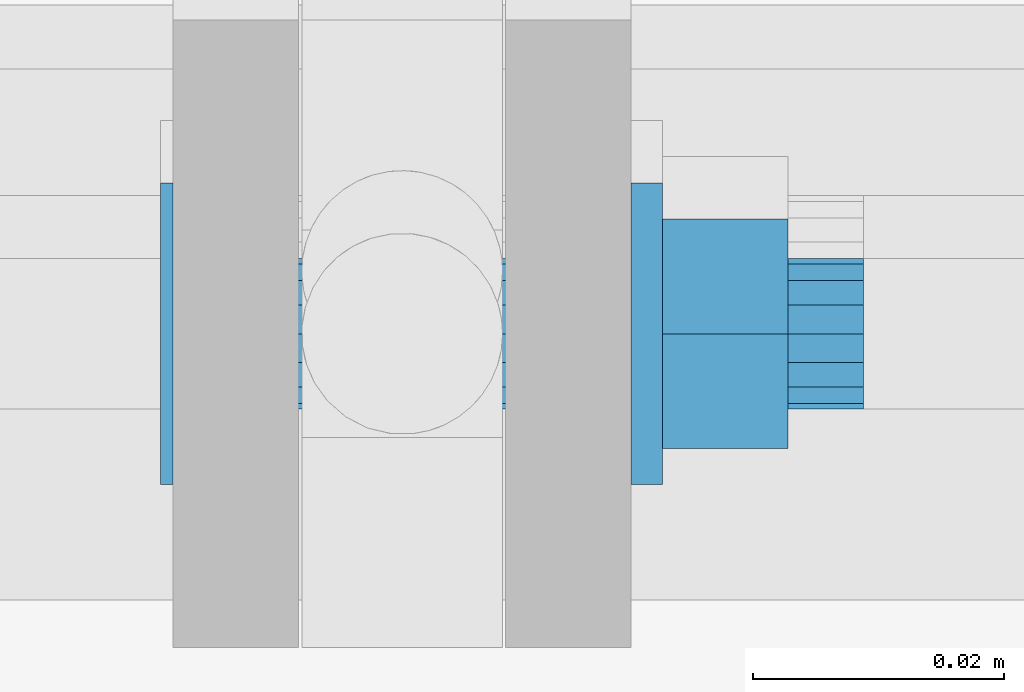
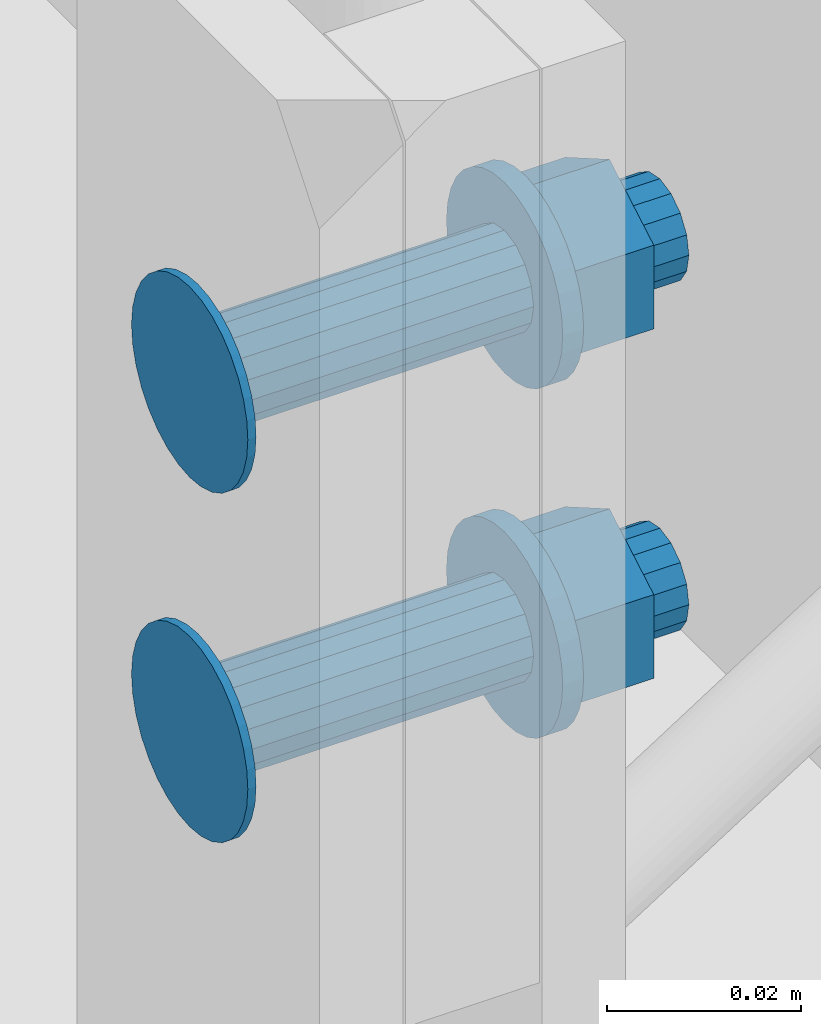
# One storey, part 73 of 98: 1 mechanical fastener.
"""IFC2X3 building model written with IfcOpenShell, lengths in millimetres."""

from ifc_helpers import new_model, entity, si_unit, converted_unit, origin_with_axes, place, context, project, spatial, faceted_brep, element, save


model = new_model("IFC2X3")

# Units and contexts
model_context = context("Model", 3, precision=1e-09, world=origin_with_axes())
ifc_project = project(units=[si_unit("LENGTHUNIT", "METRE", prefix="MILLI"), si_unit("AREAUNIT", "SQUARE_METRE"), si_unit("VOLUMEUNIT", "CUBIC_METRE"), converted_unit("PLANEANGLEUNIT", "DEGREE", entity("IfcPlaneAngleMeasure", 0.01745329), si_unit("PLANEANGLEUNIT", "RADIAN"), dimensions=[0, 0, 0, 0, 0, 0, 0])], contexts=[model_context])

# Site, building, storey
site_placement = place(None, origin_with_axes())
site = spatial("IfcSite", under=ifc_project, at=site_placement, Name="Maybachstra?e 2, 71563 Affalterbach", CompositionType="ELEMENT")
building_placement = place(site_placement, origin_with_axes())
building = spatial("IfcBuilding", under=site, at=building_placement, Name="Struktur 1", CompositionType="ELEMENT")
storey_placement = place(building_placement, origin_with_axes())
storey = spatial("IfcBuildingStorey", under=building, at=storey_placement, Name="Default Storey", CompositionType="ELEMENT", Elevation=0.0)

# Mechanical fastener
mechanical_fastener_placement = place(None, origin_with_axes())
element("IfcMechanicalFastener", 1, at=mechanical_fastener_placement, inside=storey, ObjectType="-", NominalDiameter=12.0, NominalLength=55.0, context=model_context, shape_type="Brep", body=[
    faceted_brep([(7996.779157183, -57.0, 4707.105870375), (7995.779157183, -57.0, 4707.105870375), (7995.779157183, -56.769423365, 4704.764786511), (7996.779157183, -56.769423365, 4704.764786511), (7995.779157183, -56.08655439, 4702.513669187), (7996.779157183, -56.08655439, 4702.513669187), (7995.779157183, -54.977635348, 4700.439027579), (7996.779157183, -54.977635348, 4700.439027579), (7995.779157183, -53.485281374, 4698.620589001), (7996.779157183, -53.485281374, 4698.620589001), (7995.779157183, -51.666842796, 4697.128235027), (7996.779157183, -51.666842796, 4697.128235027), (7995.779157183, -49.592201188, 4696.019315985), (7996.779157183, -49.592201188, 4696.019315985), (7995.779157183, -47.341083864, 4695.33644701), (7996.779157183, -47.341083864, 4695.33644701), (7995.779157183, -45.0, 4695.105870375), (7996.779157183, -45.0, 4695.105870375), (7995.779157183, -42.658916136, 4695.33644701), (7996.779157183, -42.658916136, 4695.33644701), (7995.779157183, -40.407798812, 4696.019315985), (7996.779157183, -40.407798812, 4696.019315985), (7995.779157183, -38.333157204, 4697.128235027), (7996.779157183, -38.333157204, 4697.128235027), (7995.779157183, -36.514718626, 4698.620589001), (7996.779157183, -36.514718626, 4698.620589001), (7995.779157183, -35.022364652, 4700.439027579), (7996.779157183, -35.022364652, 4700.439027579), (7995.779157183, -33.91344561, 4702.513669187), (7996.779157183, -33.91344561, 4702.513669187), (7995.779157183, -33.230576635, 4704.764786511), (7996.779157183, -33.230576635, 4704.764786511), (7995.779157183, -33.0, 4707.105870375), (7996.779157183, -33.0, 4707.105870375), (7995.779157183, -33.230576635, 4709.446954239), (7996.779157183, -33.230576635, 4709.446954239), (7995.779157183, -33.91344561, 4711.698071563), (7996.779157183, -33.91344561, 4711.698071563), (7995.779157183, -35.022364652, 4713.772713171), (7996.779157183, -35.022364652, 4713.772713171), (7995.779157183, -36.514718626, 4715.591151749), (7996.779157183, -36.514718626, 4715.591151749), (7995.779157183, -38.333157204, 4717.083505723), (7996.779157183, -38.333157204, 4717.083505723), (7995.779157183, -40.407798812, 4718.192424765), (7996.779157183, -40.407798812, 4718.192424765), (7995.779157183, -42.658916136, 4718.87529374), (7996.779157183, -42.658916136, 4718.87529374), (7995.779157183, -45.0, 4719.105870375), (7996.779157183, -45.0, 4719.105870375), (7995.779157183, -47.341083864, 4718.87529374), (7996.779157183, -47.341083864, 4718.87529374), (7995.779157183, -49.592201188, 4718.192424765), (7996.779157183, -49.592201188, 4718.192424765), (7995.779157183, -51.666842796, 4717.083505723), (7996.779157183, -51.666842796, 4717.083505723), (7995.779157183, -53.485281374, 4715.591151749), (7996.779157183, -53.485281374, 4715.591151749), (7995.779157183, -54.977635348, 4713.772713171), (7996.779157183, -54.977635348, 4713.772713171), (7995.779157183, -56.08655439, 4711.698071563), (7996.779157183, -56.08655439, 4711.698071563), (7995.779157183, -56.769423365, 4709.446954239), (7996.779157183, -56.769423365, 4709.446954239)], [[[0, 1, 2, 3]], [[3, 2, 4, 5]], [[5, 4, 6, 7]], [[7, 6, 8, 9]], [[9, 8, 10, 11]], [[11, 10, 12, 13]], [[13, 12, 14, 15]], [[15, 14, 16, 17]], [[17, 16, 18, 19]], [[19, 18, 20, 21]], [[21, 20, 22, 23]], [[23, 22, 24, 25]], [[25, 24, 26, 27]], [[27, 26, 28, 29]], [[29, 28, 30, 31]], [[31, 30, 32, 33]], [[33, 32, 34, 35]], [[35, 34, 36, 37]], [[37, 36, 38, 39]], [[39, 38, 40, 41]], [[41, 40, 42, 43]], [[43, 42, 44, 45]], [[45, 44, 46, 47]], [[47, 46, 48, 49]], [[49, 48, 50, 51]], [[51, 50, 52, 53]], [[53, 52, 54, 55]], [[55, 54, 56, 57]], [[57, 56, 58, 59]], [[59, 58, 60, 61]], [[61, 60, 62, 63]], [[63, 62, 1, 0]], [[2, 1, 62, 60, 58, 56, 54, 52, 50, 48, 46, 44, 42, 40, 38, 36, 34, 32, 30, 28, 26, 24, 22, 20, 18, 16, 14, 12, 10, 8, 6, 4]], [[63, 0, 3, 5, 7, 9, 11, 13, 15, 17, 19, 21, 23, 25, 27, 29, 31, 33, 35, 37, 39, 41, 43, 45, 47, 49, 51, 53, 55, 57, 59, 61]]]),
    faceted_brep([(7996.779157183, -57.0, 4663.105870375), (7995.779157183, -57.0, 4663.105870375), (7995.779157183, -56.769423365, 4660.764786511), (7996.779157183, -56.769423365, 4660.764786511), (7995.779157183, -56.08655439, 4658.513669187), (7996.779157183, -56.08655439, 4658.513669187), (7995.779157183, -54.977635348, 4656.439027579), (7996.779157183, -54.977635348, 4656.439027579), (7995.779157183, -53.485281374, 4654.620589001), (7996.779157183, -53.485281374, 4654.620589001), (7995.779157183, -51.666842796, 4653.128235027), (7996.779157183, -51.666842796, 4653.128235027), (7995.779157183, -49.592201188, 4652.019315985), (7996.779157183, -49.592201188, 4652.019315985), (7995.779157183, -47.341083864, 4651.33644701), (7996.779157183, -47.341083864, 4651.33644701), (7995.779157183, -45.0, 4651.105870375), (7996.779157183, -45.0, 4651.105870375), (7995.779157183, -42.658916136, 4651.33644701), (7996.779157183, -42.658916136, 4651.33644701), (7995.779157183, -40.407798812, 4652.019315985), (7996.779157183, -40.407798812, 4652.019315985), (7995.779157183, -38.333157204, 4653.128235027), (7996.779157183, -38.333157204, 4653.128235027), (7995.779157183, -36.514718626, 4654.620589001), (7996.779157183, -36.514718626, 4654.620589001), (7995.779157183, -35.022364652, 4656.439027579), (7996.779157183, -35.022364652, 4656.439027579), (7995.779157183, -33.91344561, 4658.513669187), (7996.779157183, -33.91344561, 4658.513669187), (7995.779157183, -33.230576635, 4660.764786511), (7996.779157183, -33.230576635, 4660.764786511), (7995.779157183, -33.0, 4663.105870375), (7996.779157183, -33.0, 4663.105870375), (7995.779157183, -33.230576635, 4665.446954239), (7996.779157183, -33.230576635, 4665.446954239), (7995.779157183, -33.91344561, 4667.698071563), (7996.779157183, -33.91344561, 4667.698071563), (7995.779157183, -35.022364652, 4669.772713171), (7996.779157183, -35.022364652, 4669.772713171), (7995.779157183, -36.514718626, 4671.591151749), (7996.779157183, -36.514718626, 4671.591151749), (7995.779157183, -38.333157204, 4673.083505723), (7996.779157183, -38.333157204, 4673.083505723), (7995.779157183, -40.407798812, 4674.192424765), (7996.779157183, -40.407798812, 4674.192424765), (7995.779157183, -42.658916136, 4674.87529374), (7996.779157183, -42.658916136, 4674.87529374), (7995.779157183, -45.0, 4675.105870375), (7996.779157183, -45.0, 4675.105870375), (7995.779157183, -47.341083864, 4674.87529374), (7996.779157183, -47.341083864, 4674.87529374), (7995.779157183, -49.592201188, 4674.192424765), (7996.779157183, -49.592201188, 4674.192424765), (7995.779157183, -51.666842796, 4673.083505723), (7996.779157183, -51.666842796, 4673.083505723), (7995.779157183, -53.485281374, 4671.591151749), (7996.779157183, -53.485281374, 4671.591151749), (7995.779157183, -54.977635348, 4669.772713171), (7996.779157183, -54.977635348, 4669.772713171), (7995.779157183, -56.08655439, 4667.698071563), (7996.779157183, -56.08655439, 4667.698071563), (7995.779157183, -56.769423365, 4665.446954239), (7996.779157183, -56.769423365, 4665.446954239)], [[[0, 1, 2, 3]], [[3, 2, 4, 5]], [[5, 4, 6, 7]], [[7, 6, 8, 9]], [[9, 8, 10, 11]], [[11, 10, 12, 13]], [[13, 12, 14, 15]], [[15, 14, 16, 17]], [[17, 16, 18, 19]], [[19, 18, 20, 21]], [[21, 20, 22, 23]], [[23, 22, 24, 25]], [[25, 24, 26, 27]], [[27, 26, 28, 29]], [[29, 28, 30, 31]], [[31, 30, 32, 33]], [[33, 32, 34, 35]], [[35, 34, 36, 37]], [[37, 36, 38, 39]], [[39, 38, 40, 41]], [[41, 40, 42, 43]], [[43, 42, 44, 45]], [[45, 44, 46, 47]], [[47, 46, 48, 49]], [[49, 48, 50, 51]], [[51, 50, 52, 53]], [[53, 52, 54, 55]], [[55, 54, 56, 57]], [[57, 56, 58, 59]], [[59, 58, 60, 61]], [[61, 60, 62, 63]], [[63, 62, 1, 0]], [[2, 1, 62, 60, 58, 56, 54, 52, 50, 48, 46, 44, 42, 40, 38, 36, 34, 32, 30, 28, 26, 24, 22, 20, 18, 16, 14, 12, 10, 8, 6, 4]], [[63, 0, 3, 5, 7, 9, 11, 13, 15, 17, 19, 21, 23, 25, 27, 29, 31, 33, 35, 37, 39, 41, 43, 45, 47, 49, 51, 53, 55, 57, 59, 61]]]),
    faceted_brep([(8033.279157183, -51.0, 4707.105870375), (7996.779157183, -51.0, 4707.105870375), (7996.779157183, -50.543277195, 4704.809769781), (8033.279157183, -50.543277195, 4704.809769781), (7996.779157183, -49.242640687, 4702.863229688), (8033.279157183, -49.242640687, 4702.863229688), (7996.779157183, -47.296100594, 4701.56259318), (8033.279157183, -47.296100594, 4701.56259318), (7996.779157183, -45.0, 4701.105870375), (8033.279157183, -45.0, 4701.105870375), (7996.779157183, -42.703899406, 4701.56259318), (8033.279157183, -42.703899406, 4701.56259318), (7996.779157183, -40.757359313, 4702.863229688), (8033.279157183, -40.757359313, 4702.863229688), (7996.779157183, -39.456722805, 4704.809769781), (8033.279157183, -39.456722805, 4704.809769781), (7996.779157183, -39.0, 4707.105870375), (8033.279157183, -39.0, 4707.105870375), (7996.779157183, -39.456722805, 4709.401970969), (8033.279157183, -39.456722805, 4709.401970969), (7996.779157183, -40.757359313, 4711.348511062), (8033.279157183, -40.757359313, 4711.348511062), (7996.779157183, -42.703899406, 4712.64914757), (8033.279157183, -42.703899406, 4712.64914757), (7996.779157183, -45.0, 4713.105870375), (8033.279157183, -45.0, 4713.105870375), (7996.779157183, -47.296100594, 4712.64914757), (8033.279157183, -47.296100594, 4712.64914757), (7996.779157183, -49.242640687, 4711.348511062), (8033.279157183, -49.242640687, 4711.348511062), (7996.779157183, -50.543277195, 4709.401970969), (8033.279157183, -50.543277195, 4709.401970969)], [[[0, 1, 2, 3]], [[3, 2, 4, 5]], [[5, 4, 6, 7]], [[7, 6, 8, 9]], [[9, 8, 10, 11]], [[11, 10, 12, 13]], [[13, 12, 14, 15]], [[15, 14, 16, 17]], [[17, 16, 18, 19]], [[19, 18, 20, 21]], [[21, 20, 22, 23]], [[23, 22, 24, 25]], [[25, 24, 26, 27]], [[27, 26, 28, 29]], [[29, 28, 30, 31]], [[31, 30, 1, 0]], [[2, 1, 30, 28, 26, 24, 22, 20, 18, 16, 14, 12, 10, 8, 6, 4]], [[31, 0, 3, 5, 7, 9, 11, 13, 15, 17, 19, 21, 23, 25, 27, 29]]]),
    faceted_brep([(8033.279157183, -51.0, 4663.105870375), (7996.779157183, -51.0, 4663.105870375), (7996.779157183, -50.543277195, 4660.809769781), (8033.279157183, -50.543277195, 4660.809769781), (7996.779157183, -49.242640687, 4658.863229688), (8033.279157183, -49.242640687, 4658.863229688), (7996.779157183, -47.296100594, 4657.56259318), (8033.279157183, -47.296100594, 4657.56259318), (7996.779157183, -45.0, 4657.105870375), (8033.279157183, -45.0, 4657.105870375), (7996.779157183, -42.703899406, 4657.56259318), (8033.279157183, -42.703899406, 4657.56259318), (7996.779157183, -40.757359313, 4658.863229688), (8033.279157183, -40.757359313, 4658.863229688), (7996.779157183, -39.456722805, 4660.809769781), (8033.279157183, -39.456722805, 4660.809769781), (7996.779157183, -39.0, 4663.105870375), (8033.279157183, -39.0, 4663.105870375), (7996.779157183, -39.456722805, 4665.401970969), (8033.279157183, -39.456722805, 4665.401970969), (7996.779157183, -40.757359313, 4667.348511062), (8033.279157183, -40.757359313, 4667.348511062), (7996.779157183, -42.703899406, 4668.64914757), (8033.279157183, -42.703899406, 4668.64914757), (7996.779157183, -45.0, 4669.105870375), (8033.279157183, -45.0, 4669.105870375), (7996.779157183, -47.296100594, 4668.64914757), (8033.279157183, -47.296100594, 4668.64914757), (7996.779157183, -49.242640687, 4667.348511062), (8033.279157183, -49.242640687, 4667.348511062), (7996.779157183, -50.543277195, 4665.401970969), (8033.279157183, -50.543277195, 4665.401970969)], [[[0, 1, 2, 3]], [[3, 2, 4, 5]], [[5, 4, 6, 7]], [[7, 6, 8, 9]], [[9, 8, 10, 11]], [[11, 10, 12, 13]], [[13, 12, 14, 15]], [[15, 14, 16, 17]], [[17, 16, 18, 19]], [[19, 18, 20, 21]], [[21, 20, 22, 23]], [[23, 22, 24, 25]], [[25, 24, 26, 27]], [[27, 26, 28, 29]], [[29, 28, 30, 31]], [[31, 30, 1, 0]], [[2, 1, 30, 28, 26, 24, 22, 20, 18, 16, 14, 12, 10, 8, 6, 4]], [[31, 0, 3, 5, 7, 9, 11, 13, 15, 17, 19, 21, 23, 25, 27, 29]]]),
    faceted_brep([(8035.779157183, -57.0, 4707.105870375), (8033.279157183, -57.0, 4707.105870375), (8033.279157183, -56.769423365, 4704.764786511), (8035.779157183, -56.769423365, 4704.764786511), (8033.279157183, -56.08655439, 4702.513669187), (8035.779157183, -56.08655439, 4702.513669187), (8033.279157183, -54.977635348, 4700.439027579), (8035.779157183, -54.977635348, 4700.439027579), (8033.279157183, -53.485281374, 4698.620589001), (8035.779157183, -53.485281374, 4698.620589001), (8033.279157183, -51.666842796, 4697.128235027), (8035.779157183, -51.666842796, 4697.128235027), (8033.279157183, -49.592201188, 4696.019315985), (8035.779157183, -49.592201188, 4696.019315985), (8033.279157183, -47.341083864, 4695.33644701), (8035.779157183, -47.341083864, 4695.33644701), (8033.279157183, -45.0, 4695.105870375), (8035.779157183, -45.0, 4695.105870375), (8033.279157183, -42.658916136, 4695.33644701), (8035.779157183, -42.658916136, 4695.33644701), (8033.279157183, -40.407798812, 4696.019315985), (8035.779157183, -40.407798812, 4696.019315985), (8033.279157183, -38.333157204, 4697.128235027), (8035.779157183, -38.333157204, 4697.128235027), (8033.279157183, -36.514718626, 4698.620589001), (8035.779157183, -36.514718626, 4698.620589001), (8033.279157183, -35.022364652, 4700.439027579), (8035.779157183, -35.022364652, 4700.439027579), (8033.279157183, -33.91344561, 4702.513669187), (8035.779157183, -33.91344561, 4702.513669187), (8033.279157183, -33.230576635, 4704.764786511), (8035.779157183, -33.230576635, 4704.764786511), (8033.279157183, -33.0, 4707.105870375), (8035.779157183, -33.0, 4707.105870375), (8033.279157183, -33.230576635, 4709.446954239), (8035.779157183, -33.230576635, 4709.446954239), (8033.279157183, -33.91344561, 4711.698071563), (8035.779157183, -33.91344561, 4711.698071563), (8033.279157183, -35.022364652, 4713.772713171), (8035.779157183, -35.022364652, 4713.772713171), (8033.279157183, -36.514718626, 4715.591151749), (8035.779157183, -36.514718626, 4715.591151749), (8033.279157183, -38.333157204, 4717.083505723), (8035.779157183, -38.333157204, 4717.083505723), (8033.279157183, -40.407798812, 4718.192424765), (8035.779157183, -40.407798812, 4718.192424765), (8033.279157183, -42.658916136, 4718.87529374), (8035.779157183, -42.658916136, 4718.87529374), (8033.279157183, -45.0, 4719.105870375), (8035.779157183, -45.0, 4719.105870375), (8033.279157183, -47.341083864, 4718.87529374), (8035.779157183, -47.341083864, 4718.87529374), (8033.279157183, -49.592201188, 4718.192424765), (8035.779157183, -49.592201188, 4718.192424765), (8033.279157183, -51.666842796, 4717.083505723), (8035.779157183, -51.666842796, 4717.083505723), (8033.279157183, -53.485281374, 4715.591151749), (8035.779157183, -53.485281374, 4715.591151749), (8033.279157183, -54.977635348, 4713.772713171), (8035.779157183, -54.977635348, 4713.772713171), (8033.279157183, -56.08655439, 4711.698071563), (8035.779157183, -56.08655439, 4711.698071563), (8033.279157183, -56.769423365, 4709.446954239), (8035.779157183, -56.769423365, 4709.446954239)], [[[0, 1, 2, 3]], [[3, 2, 4, 5]], [[5, 4, 6, 7]], [[7, 6, 8, 9]], [[9, 8, 10, 11]], [[11, 10, 12, 13]], [[13, 12, 14, 15]], [[15, 14, 16, 17]], [[17, 16, 18, 19]], [[19, 18, 20, 21]], [[21, 20, 22, 23]], [[23, 22, 24, 25]], [[25, 24, 26, 27]], [[27, 26, 28, 29]], [[29, 28, 30, 31]], [[31, 30, 32, 33]], [[33, 32, 34, 35]], [[35, 34, 36, 37]], [[37, 36, 38, 39]], [[39, 38, 40, 41]], [[41, 40, 42, 43]], [[43, 42, 44, 45]], [[45, 44, 46, 47]], [[47, 46, 48, 49]], [[49, 48, 50, 51]], [[51, 50, 52, 53]], [[53, 52, 54, 55]], [[55, 54, 56, 57]], [[57, 56, 58, 59]], [[59, 58, 60, 61]], [[61, 60, 62, 63]], [[63, 62, 1, 0]], [[2, 1, 62, 60, 58, 56, 54, 52, 50, 48, 46, 44, 42, 40, 38, 36, 34, 32, 30, 28, 26, 24, 22, 20, 18, 16, 14, 12, 10, 8, 6, 4]], [[63, 0, 3, 5, 7, 9, 11, 13, 15, 17, 19, 21, 23, 25, 27, 29, 31, 33, 35, 37, 39, 41, 43, 45, 47, 49, 51, 53, 55, 57, 59, 61]]]),
    faceted_brep([(8035.779157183, -57.0, 4663.105870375), (8033.279157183, -57.0, 4663.105870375), (8033.279157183, -56.769423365, 4660.764786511), (8035.779157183, -56.769423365, 4660.764786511), (8033.279157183, -56.08655439, 4658.513669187), (8035.779157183, -56.08655439, 4658.513669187), (8033.279157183, -54.977635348, 4656.439027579), (8035.779157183, -54.977635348, 4656.439027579), (8033.279157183, -53.485281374, 4654.620589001), (8035.779157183, -53.485281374, 4654.620589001), (8033.279157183, -51.666842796, 4653.128235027), (8035.779157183, -51.666842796, 4653.128235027), (8033.279157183, -49.592201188, 4652.019315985), (8035.779157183, -49.592201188, 4652.019315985), (8033.279157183, -47.341083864, 4651.33644701), (8035.779157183, -47.341083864, 4651.33644701), (8033.279157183, -45.0, 4651.105870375), (8035.779157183, -45.0, 4651.105870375), (8033.279157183, -42.658916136, 4651.33644701), (8035.779157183, -42.658916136, 4651.33644701), (8033.279157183, -40.407798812, 4652.019315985), (8035.779157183, -40.407798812, 4652.019315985), (8033.279157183, -38.333157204, 4653.128235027), (8035.779157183, -38.333157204, 4653.128235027), (8033.279157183, -36.514718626, 4654.620589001), (8035.779157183, -36.514718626, 4654.620589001), (8033.279157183, -35.022364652, 4656.439027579), (8035.779157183, -35.022364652, 4656.439027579), (8033.279157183, -33.91344561, 4658.513669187), (8035.779157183, -33.91344561, 4658.513669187), (8033.279157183, -33.230576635, 4660.764786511), (8035.779157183, -33.230576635, 4660.764786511), (8033.279157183, -33.0, 4663.105870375), (8035.779157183, -33.0, 4663.105870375), (8033.279157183, -33.230576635, 4665.446954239), (8035.779157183, -33.230576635, 4665.446954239), (8033.279157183, -33.91344561, 4667.698071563), (8035.779157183, -33.91344561, 4667.698071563), (8033.279157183, -35.022364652, 4669.772713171), (8035.779157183, -35.022364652, 4669.772713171), (8033.279157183, -36.514718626, 4671.591151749), (8035.779157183, -36.514718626, 4671.591151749), (8033.279157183, -38.333157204, 4673.083505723), (8035.779157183, -38.333157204, 4673.083505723), (8033.279157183, -40.407798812, 4674.192424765), (8035.779157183, -40.407798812, 4674.192424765), (8033.279157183, -42.658916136, 4674.87529374), (8035.779157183, -42.658916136, 4674.87529374), (8033.279157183, -45.0, 4675.105870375), (8035.779157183, -45.0, 4675.105870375), (8033.279157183, -47.341083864, 4674.87529374), (8035.779157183, -47.341083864, 4674.87529374), (8033.279157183, -49.592201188, 4674.192424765), (8035.779157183, -49.592201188, 4674.192424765), (8033.279157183, -51.666842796, 4673.083505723), (8035.779157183, -51.666842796, 4673.083505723), (8033.279157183, -53.485281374, 4671.591151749), (8035.779157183, -53.485281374, 4671.591151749), (8033.279157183, -54.977635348, 4669.772713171), (8035.779157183, -54.977635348, 4669.772713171), (8033.279157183, -56.08655439, 4667.698071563), (8035.779157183, -56.08655439, 4667.698071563), (8033.279157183, -56.769423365, 4665.446954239), (8035.779157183, -56.769423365, 4665.446954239)], [[[0, 1, 2, 3]], [[3, 2, 4, 5]], [[5, 4, 6, 7]], [[7, 6, 8, 9]], [[9, 8, 10, 11]], [[11, 10, 12, 13]], [[13, 12, 14, 15]], [[15, 14, 16, 17]], [[17, 16, 18, 19]], [[19, 18, 20, 21]], [[21, 20, 22, 23]], [[23, 22, 24, 25]], [[25, 24, 26, 27]], [[27, 26, 28, 29]], [[29, 28, 30, 31]], [[31, 30, 32, 33]], [[33, 32, 34, 35]], [[35, 34, 36, 37]], [[37, 36, 38, 39]], [[39, 38, 40, 41]], [[41, 40, 42, 43]], [[43, 42, 44, 45]], [[45, 44, 46, 47]], [[47, 46, 48, 49]], [[49, 48, 50, 51]], [[51, 50, 52, 53]], [[53, 52, 54, 55]], [[55, 54, 56, 57]], [[57, 56, 58, 59]], [[59, 58, 60, 61]], [[61, 60, 62, 63]], [[63, 62, 1, 0]], [[2, 1, 62, 60, 58, 56, 54, 52, 50, 48, 46, 44, 42, 40, 38, 36, 34, 32, 30, 28, 26, 24, 22, 20, 18, 16, 14, 12, 10, 8, 6, 4]], [[63, 0, 3, 5, 7, 9, 11, 13, 15, 17, 19, 21, 23, 25, 27, 29, 31, 33, 35, 37, 39, 41, 43, 45, 47, 49, 51, 53, 55, 57, 59, 61]]]),
    faceted_brep([(8035.779157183, -35.86343199, 4701.830870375), (8045.779157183, -35.86343199, 4701.830870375), (8045.779157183, -45.0, 4696.555870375), (8035.779157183, -45.0, 4696.555870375), (8045.779157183, -54.13656801, 4701.830870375), (8035.779157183, -54.13656801, 4701.830870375), (8045.779157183, -54.13656801, 4712.380870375), (8035.779157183, -54.13656801, 4712.380870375), (8045.779157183, -45.0, 4717.655870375), (8035.779157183, -45.0, 4717.655870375), (8045.779157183, -35.86343199, 4712.380870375), (8035.779157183, -35.86343199, 4712.380870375)], [[[0, 1, 2, 3]], [[3, 2, 4, 5]], [[5, 4, 6, 7]], [[7, 6, 8, 9]], [[9, 8, 10, 11]], [[11, 10, 1, 0]], [[3, 5, 7, 9, 11, 0]], [[2, 1, 10, 8, 6, 4]]]),
    faceted_brep([(8035.779157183, -35.86343199, 4657.830870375), (8045.779157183, -35.86343199, 4657.830870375), (8045.779157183, -45.0, 4652.555870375), (8035.779157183, -45.0, 4652.555870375), (8045.779157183, -54.13656801, 4657.830870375), (8035.779157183, -54.13656801, 4657.830870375), (8045.779157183, -54.13656801, 4668.380870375), (8035.779157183, -54.13656801, 4668.380870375), (8045.779157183, -45.0, 4673.655870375), (8035.779157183, -45.0, 4673.655870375), (8045.779157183, -35.86343199, 4668.380870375), (8035.779157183, -35.86343199, 4668.380870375)], [[[0, 1, 2, 3]], [[3, 2, 4, 5]], [[5, 4, 6, 7]], [[7, 6, 8, 9]], [[9, 8, 10, 11]], [[11, 10, 1, 0]], [[3, 5, 7, 9, 11, 0]], [[2, 1, 10, 8, 6, 4]]]),
    faceted_brep([(8051.779157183, -51.0, 4707.105870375), (8045.779157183, -51.0, 4707.105870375), (8045.779157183, -50.543277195, 4704.809769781), (8051.779157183, -50.543277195, 4704.809769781), (8045.779157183, -49.242640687, 4702.863229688), (8051.779157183, -49.242640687, 4702.863229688), (8045.779157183, -47.296100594, 4701.56259318), (8051.779157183, -47.296100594, 4701.56259318), (8045.779157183, -45.0, 4701.105870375), (8051.779157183, -45.0, 4701.105870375), (8045.779157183, -42.703899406, 4701.56259318), (8051.779157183, -42.703899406, 4701.56259318), (8045.779157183, -40.757359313, 4702.863229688), (8051.779157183, -40.757359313, 4702.863229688), (8045.779157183, -39.456722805, 4704.809769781), (8051.779157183, -39.456722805, 4704.809769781), (8045.779157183, -39.0, 4707.105870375), (8051.779157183, -39.0, 4707.105870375), (8045.779157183, -39.456722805, 4709.401970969), (8051.779157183, -39.456722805, 4709.401970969), (8045.779157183, -40.757359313, 4711.348511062), (8051.779157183, -40.757359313, 4711.348511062), (8045.779157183, -42.703899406, 4712.64914757), (8051.779157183, -42.703899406, 4712.64914757), (8045.779157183, -45.0, 4713.105870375), (8051.779157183, -45.0, 4713.105870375), (8045.779157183, -47.296100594, 4712.64914757), (8051.779157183, -47.296100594, 4712.64914757), (8045.779157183, -49.242640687, 4711.348511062), (8051.779157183, -49.242640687, 4711.348511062), (8045.779157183, -50.543277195, 4709.401970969), (8051.779157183, -50.543277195, 4709.401970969)], [[[0, 1, 2, 3]], [[3, 2, 4, 5]], [[5, 4, 6, 7]], [[7, 6, 8, 9]], [[9, 8, 10, 11]], [[11, 10, 12, 13]], [[13, 12, 14, 15]], [[15, 14, 16, 17]], [[17, 16, 18, 19]], [[19, 18, 20, 21]], [[21, 20, 22, 23]], [[23, 22, 24, 25]], [[25, 24, 26, 27]], [[27, 26, 28, 29]], [[29, 28, 30, 31]], [[31, 30, 1, 0]], [[2, 1, 30, 28, 26, 24, 22, 20, 18, 16, 14, 12, 10, 8, 6, 4]], [[31, 0, 3, 5, 7, 9, 11, 13, 15, 17, 19, 21, 23, 25, 27, 29]]]),
    faceted_brep([(8051.779157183, -51.0, 4663.105870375), (8045.779157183, -51.0, 4663.105870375), (8045.779157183, -50.543277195, 4660.809769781), (8051.779157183, -50.543277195, 4660.809769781), (8045.779157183, -49.242640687, 4658.863229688), (8051.779157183, -49.242640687, 4658.863229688), (8045.779157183, -47.296100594, 4657.56259318), (8051.779157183, -47.296100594, 4657.56259318), (8045.779157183, -45.0, 4657.105870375), (8051.779157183, -45.0, 4657.105870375), (8045.779157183, -42.703899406, 4657.56259318), (8051.779157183, -42.703899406, 4657.56259318), (8045.779157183, -40.757359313, 4658.863229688), (8051.779157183, -40.757359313, 4658.863229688), (8045.779157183, -39.456722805, 4660.809769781), (8051.779157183, -39.456722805, 4660.809769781), (8045.779157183, -39.0, 4663.105870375), (8051.779157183, -39.0, 4663.105870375), (8045.779157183, -39.456722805, 4665.401970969), (8051.779157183, -39.456722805, 4665.401970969), (8045.779157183, -40.757359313, 4667.348511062), (8051.779157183, -40.757359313, 4667.348511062), (8045.779157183, -42.703899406, 4668.64914757), (8051.779157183, -42.703899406, 4668.64914757), (8045.779157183, -45.0, 4669.105870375), (8051.779157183, -45.0, 4669.105870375), (8045.779157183, -47.296100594, 4668.64914757), (8051.779157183, -47.296100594, 4668.64914757), (8045.779157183, -49.242640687, 4667.348511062), (8051.779157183, -49.242640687, 4667.348511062), (8045.779157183, -50.543277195, 4665.401970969), (8051.779157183, -50.543277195, 4665.401970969)], [[[0, 1, 2, 3]], [[3, 2, 4, 5]], [[5, 4, 6, 7]], [[7, 6, 8, 9]], [[9, 8, 10, 11]], [[11, 10, 12, 13]], [[13, 12, 14, 15]], [[15, 14, 16, 17]], [[17, 16, 18, 19]], [[19, 18, 20, 21]], [[21, 20, 22, 23]], [[23, 22, 24, 25]], [[25, 24, 26, 27]], [[27, 26, 28, 29]], [[29, 28, 30, 31]], [[31, 30, 1, 0]], [[2, 1, 30, 28, 26, 24, 22, 20, 18, 16, 14, 12, 10, 8, 6, 4]], [[31, 0, 3, 5, 7, 9, 11, 13, 15, 17, 19, 21, 23, 25, 27, 29]]]),
])

save(model, "model.ifc")
